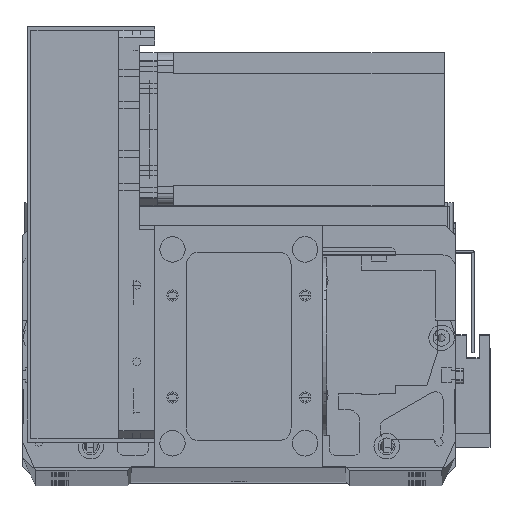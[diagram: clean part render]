
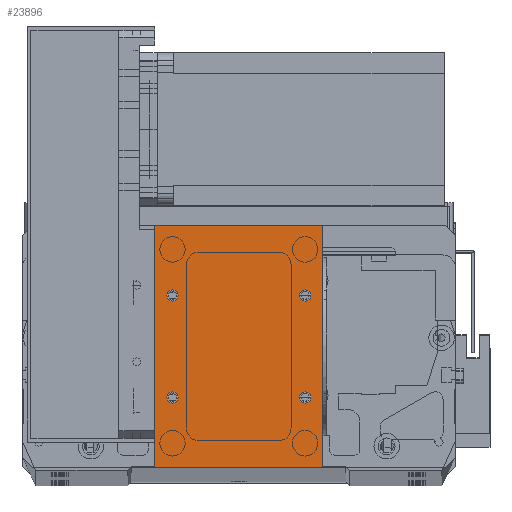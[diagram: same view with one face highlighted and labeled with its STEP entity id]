
A CAD part, top view. The second image highlights one B-rep face of the part: STEP entity #23896.
In plain terms, the highlighted planar face has unit normal (0, 0, 1).
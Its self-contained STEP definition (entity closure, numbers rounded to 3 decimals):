
#326 = CARTESIAN_POINT ( 'NONE',  ( 4.75, 67.5, 2. ) ) ;
#959 = CIRCLE ( 'NONE', #3744, 2.25 ) ;
#1010 = DIRECTION ( 'NONE',  ( 0., 0., 1. ) ) ;
#1041 = DIRECTION ( 'NONE',  ( 0., -1., 0. ) ) ;
#1611 = EDGE_CURVE ( 'NONE', #21372, #4891, #35285, .T. ) ;
#1768 = CIRCLE ( 'NONE', #13070, 2.25 ) ;
#2210 = ORIENTED_EDGE ( 'NONE', *, *, #6798, .F. ) ;
#3110 = ORIENTED_EDGE ( 'NONE', *, *, #31662, .F. ) ;
#3744 = AXIS2_PLACEMENT_3D ( 'NONE', #10360, #29437, #13109 ) ;
#4792 = FACE_BOUND ( 'NONE', #11977, .T. ) ;
#4891 = VERTEX_POINT ( 'NONE', #29530 ) ;
#5023 = VERTEX_POINT ( 'NONE', #326 ) ;
#5372 = CARTESIAN_POINT ( 'NONE',  ( 0., 95., 2. ) ) ;
#5476 = DIRECTION ( 'NONE',  ( 0., 0., 1. ) ) ;
#5653 = FACE_BOUND ( 'NONE', #13319, .T. ) ;
#6798 = EDGE_CURVE ( 'NONE', #8498, #9444, #26276, .T. ) ;
#7117 = VECTOR ( 'NONE', #26390, 1000. ) ;
#7527 = ORIENTED_EDGE ( 'NONE', *, *, #33548, .F. ) ;
#8498 = VERTEX_POINT ( 'NONE', #28963 ) ;
#9104 = CIRCLE ( 'NONE', #12074, 2.25 ) ;
#9444 = VERTEX_POINT ( 'NONE', #33176 ) ;
#9759 = EDGE_CURVE ( 'NONE', #5023, #17794, #1768, .T. ) ;
#10205 = EDGE_CURVE ( 'NONE', #13489, #13760, #18832, .T. ) ;
#10360 = CARTESIAN_POINT ( 'NONE',  ( 7., 27.5, 2. ) ) ;
#10638 = CARTESIAN_POINT ( 'NONE',  ( 61.25, 67.5, 2. ) ) ;
#10783 = AXIS2_PLACEMENT_3D ( 'NONE', #12845, #31914, #15607 ) ;
#10899 = EDGE_CURVE ( 'NONE', #12633, #15764, #22501, .T. ) ;
#11182 = EDGE_CURVE ( 'NONE', #4891, #12633, #12201, .T. ) ;
#11299 = AXIS2_PLACEMENT_3D ( 'NONE', #15770, #34826, #18516 ) ;
#11873 = CARTESIAN_POINT ( 'NONE',  ( 56.75, 27.5, 2. ) ) ;
#11977 = EDGE_LOOP ( 'NONE', ( #29752, #24516 ) ) ;
#11988 = CARTESIAN_POINT ( 'NONE',  ( 0., 0., 2. ) ) ;
#12021 = FACE_BOUND ( 'NONE', #25401, .T. ) ;
#12074 = AXIS2_PLACEMENT_3D ( 'NONE', #17355, #1010, #20083 ) ;
#12201 = LINE ( 'NONE', #24952, #33125 ) ;
#12229 = CARTESIAN_POINT ( 'NONE',  ( 59., 67.5, 2. ) ) ;
#12266 = DIRECTION ( 'NONE',  ( 0., 0., 1. ) ) ;
#12316 = CARTESIAN_POINT ( 'NONE',  ( 56.75, 67.5, 2. ) ) ;
#12633 = VERTEX_POINT ( 'NONE', #21696 ) ;
#12747 = CARTESIAN_POINT ( 'NONE',  ( 7., 67.5, 2. ) ) ;
#12799 = CARTESIAN_POINT ( 'NONE',  ( 66., 0., 2. ) ) ;
#12845 = CARTESIAN_POINT ( 'NONE',  ( 59., 67.5, 2. ) ) ;
#13070 = AXIS2_PLACEMENT_3D ( 'NONE', #12747, #31822, #15519 ) ;
#13109 = DIRECTION ( 'NONE',  ( 1., 0., 0. ) ) ;
#13319 = EDGE_LOOP ( 'NONE', ( #21536, #3110 ) ) ;
#13489 = VERTEX_POINT ( 'NONE', #12316 ) ;
#13760 = VERTEX_POINT ( 'NONE', #10638 ) ;
#14236 = DIRECTION ( 'NONE',  ( -1., 0., 0. ) ) ;
#15015 = DIRECTION ( 'NONE',  ( 1., 0., 0. ) ) ;
#15162 = DIRECTION ( 'NONE',  ( -1., 0., 0. ) ) ;
#15519 = DIRECTION ( 'NONE',  ( 1., 0., 0. ) ) ;
#15607 = DIRECTION ( 'NONE',  ( 1., 0., 0. ) ) ;
#15764 = VERTEX_POINT ( 'NONE', #23414 ) ;
#15770 = CARTESIAN_POINT ( 'NONE',  ( 7., 27.5, 2. ) ) ;
#15990 = VECTOR ( 'NONE', #14236, 1000. ) ;
#17355 = CARTESIAN_POINT ( 'NONE',  ( 59., 27.5, 2. ) ) ;
#17794 = VERTEX_POINT ( 'NONE', #33683 ) ;
#18516 = DIRECTION ( 'NONE',  ( 1., 0., 0. ) ) ;
#18832 = CIRCLE ( 'NONE', #34317, 2.25 ) ;
#19313 = FACE_BOUND ( 'NONE', #31041, .T. ) ;
#19450 = CIRCLE ( 'NONE', #29251, 2.25 ) ;
#20083 = DIRECTION ( 'NONE',  ( 1., 0., 0. ) ) ;
#20694 = ORIENTED_EDGE ( 'NONE', *, *, #11182, .T. ) ;
#21335 = ORIENTED_EDGE ( 'NONE', *, *, #32361, .F. ) ;
#21372 = VERTEX_POINT ( 'NONE', #5372 ) ;
#21536 = ORIENTED_EDGE ( 'NONE', *, *, #23268, .F. ) ;
#21647 = VECTOR ( 'NONE', #1041, 1000. ) ;
#21696 = CARTESIAN_POINT ( 'NONE',  ( 66., 0., 2. ) ) ;
#21817 = CARTESIAN_POINT ( 'NONE',  ( 7., 67.5, 2. ) ) ;
#22057 = ORIENTED_EDGE ( 'NONE', *, *, #10205, .F. ) ;
#22233 = DIRECTION ( 'NONE',  ( 1., 0., 0. ) ) ;
#22501 = LINE ( 'NONE', #12799, #7117 ) ;
#22669 = EDGE_CURVE ( 'NONE', #15764, #21372, #23231, .T. ) ;
#23231 = LINE ( 'NONE', #30547, #15990 ) ;
#23259 = PLANE ( 'NONE',  #32663 ) ;
#23268 = EDGE_CURVE ( 'NONE', #26133, #27244, #9104, .T. ) ;
#23405 = CARTESIAN_POINT ( 'NONE',  ( 61.25, 27.5, 2. ) ) ;
#23414 = CARTESIAN_POINT ( 'NONE',  ( 66., 95., 2. ) ) ;
#23896 = ADVANCED_FACE ( 'NONE', ( #4792, #19313, #5653, #12021, #32949 ), #23259, .F. ) ;
#24516 = ORIENTED_EDGE ( 'NONE', *, *, #9759, .F. ) ;
#24533 = DIRECTION ( 'NONE',  ( 1., 0., 0. ) ) ;
#24952 = CARTESIAN_POINT ( 'NONE',  ( 0., 0., 2. ) ) ;
#25401 = EDGE_LOOP ( 'NONE', ( #2210, #7527 ) ) ;
#25999 = CARTESIAN_POINT ( 'NONE',  ( 0., 0., 2. ) ) ;
#26133 = VERTEX_POINT ( 'NONE', #23405 ) ;
#26190 = CIRCLE ( 'NONE', #10783, 2.25 ) ;
#26276 = CIRCLE ( 'NONE', #11299, 2.25 ) ;
#26390 = DIRECTION ( 'NONE',  ( 0., 1., 0. ) ) ;
#27027 = EDGE_CURVE ( 'NONE', #17794, #5023, #31865, .T. ) ;
#27244 = VERTEX_POINT ( 'NONE', #11873 ) ;
#27694 = ORIENTED_EDGE ( 'NONE', *, *, #10899, .T. ) ;
#28596 = CARTESIAN_POINT ( 'NONE',  ( 59., 27.5, 2. ) ) ;
#28963 = CARTESIAN_POINT ( 'NONE',  ( 9.25, 27.5, 2. ) ) ;
#29251 = AXIS2_PLACEMENT_3D ( 'NONE', #28596, #12266, #31354 ) ;
#29262 = EDGE_LOOP ( 'NONE', ( #32927, #20694, #27694, #34097 ) ) ;
#29437 = DIRECTION ( 'NONE',  ( 0., 0., 1. ) ) ;
#29530 = CARTESIAN_POINT ( 'NONE',  ( 0., 0., 2. ) ) ;
#29752 = ORIENTED_EDGE ( 'NONE', *, *, #27027, .F. ) ;
#30500 = AXIS2_PLACEMENT_3D ( 'NONE', #21817, #5476, #24533 ) ;
#30547 = CARTESIAN_POINT ( 'NONE',  ( 0., 95., 2. ) ) ;
#31041 = EDGE_LOOP ( 'NONE', ( #21335, #22057 ) ) ;
#31322 = DIRECTION ( 'NONE',  ( 0., 0., 1. ) ) ;
#31354 = DIRECTION ( 'NONE',  ( 1., 0., 0. ) ) ;
#31465 = DIRECTION ( 'NONE',  ( 0., 0., -1. ) ) ;
#31662 = EDGE_CURVE ( 'NONE', #27244, #26133, #19450, .T. ) ;
#31822 = DIRECTION ( 'NONE',  ( 0., 0., 1. ) ) ;
#31865 = CIRCLE ( 'NONE', #30500, 2.25 ) ;
#31914 = DIRECTION ( 'NONE',  ( 0., 0., 1. ) ) ;
#32361 = EDGE_CURVE ( 'NONE', #13760, #13489, #26190, .T. ) ;
#32663 = AXIS2_PLACEMENT_3D ( 'NONE', #25999, #31465, #15162 ) ;
#32927 = ORIENTED_EDGE ( 'NONE', *, *, #1611, .T. ) ;
#32949 = FACE_OUTER_BOUND ( 'NONE', #29262, .T. ) ;
#33125 = VECTOR ( 'NONE', #22233, 1000. ) ;
#33176 = CARTESIAN_POINT ( 'NONE',  ( 4.75, 27.5, 2. ) ) ;
#33548 = EDGE_CURVE ( 'NONE', #9444, #8498, #959, .T. ) ;
#33683 = CARTESIAN_POINT ( 'NONE',  ( 9.25, 67.5, 2. ) ) ;
#34097 = ORIENTED_EDGE ( 'NONE', *, *, #22669, .T. ) ;
#34317 = AXIS2_PLACEMENT_3D ( 'NONE', #12229, #31322, #15015 ) ;
#34826 = DIRECTION ( 'NONE',  ( 0., 0., 1. ) ) ;
#35285 = LINE ( 'NONE', #11988, #21647 ) ;
